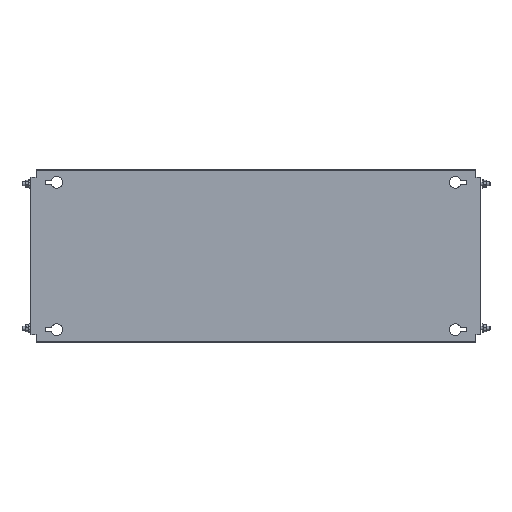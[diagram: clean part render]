
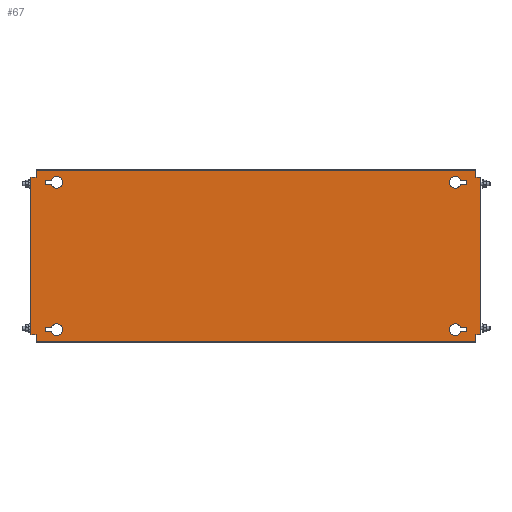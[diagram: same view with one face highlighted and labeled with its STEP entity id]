
A CAD part, top view. The second image highlights one B-rep face of the part: STEP entity #67.
In plain terms, the highlighted planar face has unit normal (0, 0, 1).
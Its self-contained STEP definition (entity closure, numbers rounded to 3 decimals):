
#67 = ADVANCED_FACE('',(#68,#103,#138,#300,#335),#370,.T.);
#68 = FACE_BOUND('',#69,.T.);
#69 = EDGE_LOOP('',(#70,#80,#88,#96));
#70 = ORIENTED_EDGE('',*,*,#71,.T.);
#71 = EDGE_CURVE('',#72,#74,#76,.T.);
#72 = VERTEX_POINT('',#73);
#73 = CARTESIAN_POINT('',(318.393,117.75,2.));
#74 = VERTEX_POINT('',#75);
#75 = CARTESIAN_POINT('',(328.,117.75,2.));
#76 = LINE('',#77,#78);
#77 = CARTESIAN_POINT('',(327.,117.75,2.));
#78 = VECTOR('',#79,1.);
#79 = DIRECTION('',(1.,0.,0.));
#80 = ORIENTED_EDGE('',*,*,#81,.T.);
#81 = EDGE_CURVE('',#74,#82,#84,.T.);
#82 = VERTEX_POINT('',#83);
#83 = CARTESIAN_POINT('',(328.,111.25,2.));
#84 = LINE('',#85,#86);
#85 = CARTESIAN_POINT('',(328.,117.75,2.));
#86 = VECTOR('',#87,1.);
#87 = DIRECTION('',(0.,-1.,0.));
#88 = ORIENTED_EDGE('',*,*,#89,.T.);
#89 = EDGE_CURVE('',#82,#90,#92,.T.);
#90 = VERTEX_POINT('',#91);
#91 = CARTESIAN_POINT('',(318.393,111.25,2.));
#92 = LINE('',#93,#94);
#93 = CARTESIAN_POINT('',(327.,111.25,2.));
#94 = VECTOR('',#95,1.);
#95 = DIRECTION('',(-1.,0.,0.));
#96 = ORIENTED_EDGE('',*,*,#97,.T.);
#97 = EDGE_CURVE('',#90,#72,#98,.T.);
#98 = CIRCLE('',#99,9.);
#99 = AXIS2_PLACEMENT_3D('',#100,#101,#102);
#100 = CARTESIAN_POINT('',(310.,114.5,2.));
#101 = DIRECTION('',(0.,0.,-1.));
#102 = DIRECTION('',(1.,0.,0.));
#103 = FACE_BOUND('',#104,.T.);
#104 = EDGE_LOOP('',(#105,#115,#123,#131));
#105 = ORIENTED_EDGE('',*,*,#106,.T.);
#106 = EDGE_CURVE('',#107,#109,#111,.T.);
#107 = VERTEX_POINT('',#108);
#108 = CARTESIAN_POINT('',(-318.393,-117.75,2.));
#109 = VERTEX_POINT('',#110);
#110 = CARTESIAN_POINT('',(-328.,-117.75,2.));
#111 = LINE('',#112,#113);
#112 = CARTESIAN_POINT('',(-327.,-117.75,2.));
#113 = VECTOR('',#114,1.);
#114 = DIRECTION('',(-1.,0.,0.));
#115 = ORIENTED_EDGE('',*,*,#116,.T.);
#116 = EDGE_CURVE('',#109,#117,#119,.T.);
#117 = VERTEX_POINT('',#118);
#118 = CARTESIAN_POINT('',(-328.,-111.25,2.));
#119 = LINE('',#120,#121);
#120 = CARTESIAN_POINT('',(-328.,-117.75,2.));
#121 = VECTOR('',#122,1.);
#122 = DIRECTION('',(0.,1.,0.));
#123 = ORIENTED_EDGE('',*,*,#124,.T.);
#124 = EDGE_CURVE('',#117,#125,#127,.T.);
#125 = VERTEX_POINT('',#126);
#126 = CARTESIAN_POINT('',(-318.393,-111.25,2.));
#127 = LINE('',#128,#129);
#128 = CARTESIAN_POINT('',(-327.,-111.25,2.));
#129 = VECTOR('',#130,1.);
#130 = DIRECTION('',(1.,-0.,-0.));
#131 = ORIENTED_EDGE('',*,*,#132,.T.);
#132 = EDGE_CURVE('',#125,#107,#133,.T.);
#133 = CIRCLE('',#134,9.);
#134 = AXIS2_PLACEMENT_3D('',#135,#136,#137);
#135 = CARTESIAN_POINT('',(-310.,-114.5,2.));
#136 = DIRECTION('',(0.,0.,-1.));
#137 = DIRECTION('',(-1.,0.,0.));
#138 = FACE_BOUND('',#139,.T.);
#139 = EDGE_LOOP('',(#140,#150,#158,#166,#174,#182,#190,#198,#206,#214,
    #222,#230,#238,#246,#254,#262,#270,#278,#286,#294));
#140 = ORIENTED_EDGE('',*,*,#141,.F.);
#141 = EDGE_CURVE('',#142,#144,#146,.T.);
#142 = VERTEX_POINT('',#143);
#143 = CARTESIAN_POINT('',(-347.4,122.5,2.));
#144 = VERTEX_POINT('',#145);
#145 = CARTESIAN_POINT('',(-342.,122.5,2.));
#146 = LINE('',#147,#148);
#147 = CARTESIAN_POINT('',(-348.,122.5,2.));
#148 = VECTOR('',#149,1.);
#149 = DIRECTION('',(1.,0.,-0.));
#150 = ORIENTED_EDGE('',*,*,#151,.T.);
#151 = EDGE_CURVE('',#142,#152,#154,.T.);
#152 = VERTEX_POINT('',#153);
#153 = CARTESIAN_POINT('',(-350.,122.5,2.));
#154 = LINE('',#155,#156);
#155 = CARTESIAN_POINT('',(-347.4,122.5,2.));
#156 = VECTOR('',#157,1.);
#157 = DIRECTION('',(-1.,0.,0.));
#158 = ORIENTED_EDGE('',*,*,#159,.F.);
#159 = EDGE_CURVE('',#160,#152,#162,.T.);
#160 = VERTEX_POINT('',#161);
#161 = CARTESIAN_POINT('',(-350.,-122.5,2.));
#162 = LINE('',#163,#164);
#163 = CARTESIAN_POINT('',(-350.,-132.5,2.));
#164 = VECTOR('',#165,1.);
#165 = DIRECTION('',(-0.,1.,-0.));
#166 = ORIENTED_EDGE('',*,*,#167,.F.);
#167 = EDGE_CURVE('',#168,#160,#170,.T.);
#168 = VERTEX_POINT('',#169);
#169 = CARTESIAN_POINT('',(-347.4,-122.5,2.));
#170 = LINE('',#171,#172);
#171 = CARTESIAN_POINT('',(-342.,-122.5,2.));
#172 = VECTOR('',#173,1.);
#173 = DIRECTION('',(-1.,-0.,-0.));
#174 = ORIENTED_EDGE('',*,*,#175,.T.);
#175 = EDGE_CURVE('',#168,#176,#178,.T.);
#176 = VERTEX_POINT('',#177);
#177 = CARTESIAN_POINT('',(-342.,-122.5,2.));
#178 = LINE('',#179,#180);
#179 = CARTESIAN_POINT('',(-348.,-122.5,2.));
#180 = VECTOR('',#181,1.);
#181 = DIRECTION('',(1.,0.,-0.));
#182 = ORIENTED_EDGE('',*,*,#183,.T.);
#183 = EDGE_CURVE('',#176,#184,#186,.T.);
#184 = VERTEX_POINT('',#185);
#185 = CARTESIAN_POINT('',(-342.,-131.9,2.));
#186 = LINE('',#187,#188);
#187 = CARTESIAN_POINT('',(-342.,132.5,2.));
#188 = VECTOR('',#189,1.);
#189 = DIRECTION('',(0.,-1.,0.));
#190 = ORIENTED_EDGE('',*,*,#191,.T.);
#191 = EDGE_CURVE('',#184,#192,#194,.T.);
#192 = VERTEX_POINT('',#193);
#193 = CARTESIAN_POINT('',(-342.,-132.5,2.));
#194 = LINE('',#195,#196);
#195 = CARTESIAN_POINT('',(-342.,-131.9,2.));
#196 = VECTOR('',#197,1.);
#197 = DIRECTION('',(-0.,-1.,-0.));
#198 = ORIENTED_EDGE('',*,*,#199,.T.);
#199 = EDGE_CURVE('',#192,#200,#202,.T.);
#200 = VERTEX_POINT('',#201);
#201 = CARTESIAN_POINT('',(342.,-132.5,2.));
#202 = LINE('',#203,#204);
#203 = CARTESIAN_POINT('',(342.,-132.5,2.));
#204 = VECTOR('',#205,1.);
#205 = DIRECTION('',(1.,0.,0.));
#206 = ORIENTED_EDGE('',*,*,#207,.F.);
#207 = EDGE_CURVE('',#208,#200,#210,.T.);
#208 = VERTEX_POINT('',#209);
#209 = CARTESIAN_POINT('',(342.,-131.9,2.));
#210 = LINE('',#211,#212);
#211 = CARTESIAN_POINT('',(342.,-132.5,2.));
#212 = VECTOR('',#213,1.);
#213 = DIRECTION('',(0.,-1.,0.));
#214 = ORIENTED_EDGE('',*,*,#215,.T.);
#215 = EDGE_CURVE('',#208,#216,#218,.T.);
#216 = VERTEX_POINT('',#217);
#217 = CARTESIAN_POINT('',(342.,-122.5,2.));
#218 = LINE('',#219,#220);
#219 = CARTESIAN_POINT('',(342.,132.5,2.));
#220 = VECTOR('',#221,1.);
#221 = DIRECTION('',(0.,1.,-0.));
#222 = ORIENTED_EDGE('',*,*,#223,.F.);
#223 = EDGE_CURVE('',#224,#216,#226,.T.);
#224 = VERTEX_POINT('',#225);
#225 = CARTESIAN_POINT('',(347.4,-122.5,2.));
#226 = LINE('',#227,#228);
#227 = CARTESIAN_POINT('',(348.,-122.5,2.));
#228 = VECTOR('',#229,1.);
#229 = DIRECTION('',(-1.,0.,-0.));
#230 = ORIENTED_EDGE('',*,*,#231,.T.);
#231 = EDGE_CURVE('',#224,#232,#234,.T.);
#232 = VERTEX_POINT('',#233);
#233 = CARTESIAN_POINT('',(350.,-122.5,2.));
#234 = LINE('',#235,#236);
#235 = CARTESIAN_POINT('',(347.4,-122.5,2.));
#236 = VECTOR('',#237,1.);
#237 = DIRECTION('',(1.,-0.,0.));
#238 = ORIENTED_EDGE('',*,*,#239,.F.);
#239 = EDGE_CURVE('',#240,#232,#242,.T.);
#240 = VERTEX_POINT('',#241);
#241 = CARTESIAN_POINT('',(350.,122.5,2.));
#242 = LINE('',#243,#244);
#243 = CARTESIAN_POINT('',(350.,-132.5,2.));
#244 = VECTOR('',#245,1.);
#245 = DIRECTION('',(-0.,-1.,0.));
#246 = ORIENTED_EDGE('',*,*,#247,.F.);
#247 = EDGE_CURVE('',#248,#240,#250,.T.);
#248 = VERTEX_POINT('',#249);
#249 = CARTESIAN_POINT('',(347.4,122.5,2.));
#250 = LINE('',#251,#252);
#251 = CARTESIAN_POINT('',(-342.,122.5,2.));
#252 = VECTOR('',#253,1.);
#253 = DIRECTION('',(1.,-0.,0.));
#254 = ORIENTED_EDGE('',*,*,#255,.T.);
#255 = EDGE_CURVE('',#248,#256,#258,.T.);
#256 = VERTEX_POINT('',#257);
#257 = CARTESIAN_POINT('',(342.,122.5,2.));
#258 = LINE('',#259,#260);
#259 = CARTESIAN_POINT('',(348.,122.5,2.));
#260 = VECTOR('',#261,1.);
#261 = DIRECTION('',(-1.,0.,-0.));
#262 = ORIENTED_EDGE('',*,*,#263,.T.);
#263 = EDGE_CURVE('',#256,#264,#266,.T.);
#264 = VERTEX_POINT('',#265);
#265 = CARTESIAN_POINT('',(342.,131.9,2.));
#266 = LINE('',#267,#268);
#267 = CARTESIAN_POINT('',(342.,132.5,2.));
#268 = VECTOR('',#269,1.);
#269 = DIRECTION('',(0.,1.,-0.));
#270 = ORIENTED_EDGE('',*,*,#271,.T.);
#271 = EDGE_CURVE('',#264,#272,#274,.T.);
#272 = VERTEX_POINT('',#273);
#273 = CARTESIAN_POINT('',(342.,132.5,2.));
#274 = LINE('',#275,#276);
#275 = CARTESIAN_POINT('',(342.,131.9,2.));
#276 = VECTOR('',#277,1.);
#277 = DIRECTION('',(-0.,1.,-0.));
#278 = ORIENTED_EDGE('',*,*,#279,.T.);
#279 = EDGE_CURVE('',#272,#280,#282,.T.);
#280 = VERTEX_POINT('',#281);
#281 = CARTESIAN_POINT('',(-342.,132.5,2.));
#282 = LINE('',#283,#284);
#283 = CARTESIAN_POINT('',(-342.,132.5,2.));
#284 = VECTOR('',#285,1.);
#285 = DIRECTION('',(-1.,0.,0.));
#286 = ORIENTED_EDGE('',*,*,#287,.F.);
#287 = EDGE_CURVE('',#288,#280,#290,.T.);
#288 = VERTEX_POINT('',#289);
#289 = CARTESIAN_POINT('',(-342.,131.9,2.));
#290 = LINE('',#291,#292);
#291 = CARTESIAN_POINT('',(-342.,-132.5,2.));
#292 = VECTOR('',#293,1.);
#293 = DIRECTION('',(0.,1.,-0.));
#294 = ORIENTED_EDGE('',*,*,#295,.T.);
#295 = EDGE_CURVE('',#288,#144,#296,.T.);
#296 = LINE('',#297,#298);
#297 = CARTESIAN_POINT('',(-342.,132.5,2.));
#298 = VECTOR('',#299,1.);
#299 = DIRECTION('',(0.,-1.,0.));
#300 = FACE_BOUND('',#301,.T.);
#301 = EDGE_LOOP('',(#302,#312,#320,#328));
#302 = ORIENTED_EDGE('',*,*,#303,.F.);
#303 = EDGE_CURVE('',#304,#306,#308,.T.);
#304 = VERTEX_POINT('',#305);
#305 = CARTESIAN_POINT('',(328.,-111.25,2.));
#306 = VERTEX_POINT('',#307);
#307 = CARTESIAN_POINT('',(318.393,-111.25,2.));
#308 = LINE('',#309,#310);
#309 = CARTESIAN_POINT('',(318.393,-111.25,2.));
#310 = VECTOR('',#311,1.);
#311 = DIRECTION('',(-1.,0.,0.));
#312 = ORIENTED_EDGE('',*,*,#313,.F.);
#313 = EDGE_CURVE('',#314,#304,#316,.T.);
#314 = VERTEX_POINT('',#315);
#315 = CARTESIAN_POINT('',(328.,-117.75,2.));
#316 = LINE('',#317,#318);
#317 = CARTESIAN_POINT('',(328.,-111.25,2.));
#318 = VECTOR('',#319,1.);
#319 = DIRECTION('',(0.,1.,0.));
#320 = ORIENTED_EDGE('',*,*,#321,.F.);
#321 = EDGE_CURVE('',#322,#314,#324,.T.);
#322 = VERTEX_POINT('',#323);
#323 = CARTESIAN_POINT('',(318.393,-117.75,2.));
#324 = LINE('',#325,#326);
#325 = CARTESIAN_POINT('',(327.,-117.75,2.));
#326 = VECTOR('',#327,1.);
#327 = DIRECTION('',(1.,0.,0.));
#328 = ORIENTED_EDGE('',*,*,#329,.F.);
#329 = EDGE_CURVE('',#306,#322,#330,.T.);
#330 = CIRCLE('',#331,9.);
#331 = AXIS2_PLACEMENT_3D('',#332,#333,#334);
#332 = CARTESIAN_POINT('',(310.,-114.5,2.));
#333 = DIRECTION('',(0.,-0.,1.));
#334 = DIRECTION('',(1.,0.,0.));
#335 = FACE_BOUND('',#336,.T.);
#336 = EDGE_LOOP('',(#337,#347,#355,#363));
#337 = ORIENTED_EDGE('',*,*,#338,.F.);
#338 = EDGE_CURVE('',#339,#341,#343,.T.);
#339 = VERTEX_POINT('',#340);
#340 = CARTESIAN_POINT('',(-328.,111.25,2.));
#341 = VERTEX_POINT('',#342);
#342 = CARTESIAN_POINT('',(-318.393,111.25,2.));
#343 = LINE('',#344,#345);
#344 = CARTESIAN_POINT('',(-318.393,111.25,2.));
#345 = VECTOR('',#346,1.);
#346 = DIRECTION('',(1.,0.,0.));
#347 = ORIENTED_EDGE('',*,*,#348,.F.);
#348 = EDGE_CURVE('',#349,#339,#351,.T.);
#349 = VERTEX_POINT('',#350);
#350 = CARTESIAN_POINT('',(-328.,117.75,2.));
#351 = LINE('',#352,#353);
#352 = CARTESIAN_POINT('',(-328.,111.25,2.));
#353 = VECTOR('',#354,1.);
#354 = DIRECTION('',(0.,-1.,0.));
#355 = ORIENTED_EDGE('',*,*,#356,.F.);
#356 = EDGE_CURVE('',#357,#349,#359,.T.);
#357 = VERTEX_POINT('',#358);
#358 = CARTESIAN_POINT('',(-318.393,117.75,2.));
#359 = LINE('',#360,#361);
#360 = CARTESIAN_POINT('',(-327.,117.75,2.));
#361 = VECTOR('',#362,1.);
#362 = DIRECTION('',(-1.,0.,0.));
#363 = ORIENTED_EDGE('',*,*,#364,.F.);
#364 = EDGE_CURVE('',#341,#357,#365,.T.);
#365 = CIRCLE('',#366,9.);
#366 = AXIS2_PLACEMENT_3D('',#367,#368,#369);
#367 = CARTESIAN_POINT('',(-310.,114.5,2.));
#368 = DIRECTION('',(0.,-0.,1.));
#369 = DIRECTION('',(-1.,0.,0.));
#370 = PLANE('',#371);
#371 = AXIS2_PLACEMENT_3D('',#372,#373,#374);
#372 = CARTESIAN_POINT('',(-342.,-132.5,2.));
#373 = DIRECTION('',(-0.,0.,1.));
#374 = DIRECTION('',(1.,0.,0.));
